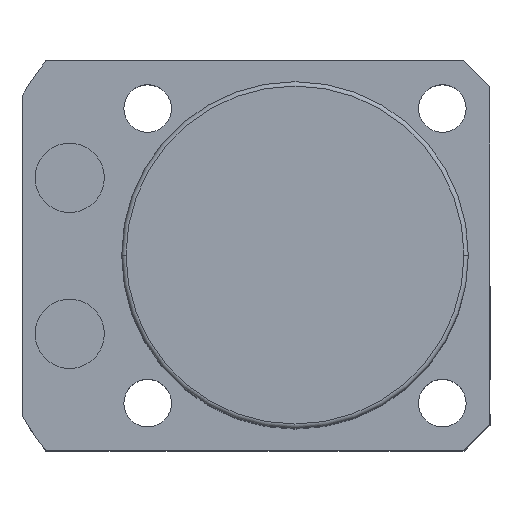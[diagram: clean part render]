
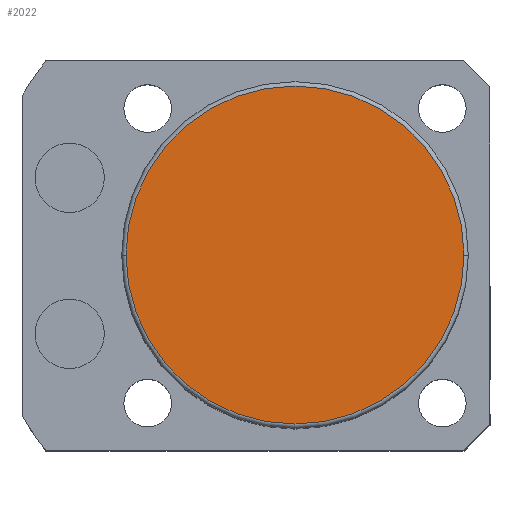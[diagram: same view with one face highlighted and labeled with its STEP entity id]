
A CAD part, top view. The second image highlights one B-rep face of the part: STEP entity #2022.
In plain terms, the highlighted planar face has unit normal (0, 0, 1).
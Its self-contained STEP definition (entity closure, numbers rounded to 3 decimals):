
#21 = CARTESIAN_POINT ( 'NONE',  ( 0., 0., 63.5 ) ) ;
#29 = DIRECTION ( 'NONE',  ( 1., 0., 0. ) ) ;
#38 = DIRECTION ( 'NONE',  ( 0., 0., 1. ) ) ;
#95 = DIRECTION ( 'NONE',  ( 0., 0., 1. ) ) ;
#198 = CIRCLE ( 'NONE', #1105, 19.5 ) ;
#222 = CIRCLE ( 'NONE', #1020, 19.5 ) ;
#405 = AXIS2_PLACEMENT_3D ( 'NONE', #1585, #665, #1034 ) ;
#434 = CARTESIAN_POINT ( 'NONE',  ( -19.5, 0., 63.5 ) ) ;
#471 = PLANE ( 'NONE',  #405 ) ;
#665 = DIRECTION ( 'NONE',  ( 0., 0., 1. ) ) ;
#684 = DIRECTION ( 'NONE',  ( 1., 0., 0. ) ) ;
#1020 = AXIS2_PLACEMENT_3D ( 'NONE', #21, #38, #29 ) ;
#1034 = DIRECTION ( 'NONE',  ( 1., 0., 0. ) ) ;
#1105 = AXIS2_PLACEMENT_3D ( 'NONE', #2171, #95, #684 ) ;
#1353 = ORIENTED_EDGE ( 'NONE', *, *, #1639, .T. ) ;
#1547 = EDGE_CURVE ( 'NONE', #2222, #1619, #198, .T. ) ;
#1585 = CARTESIAN_POINT ( 'NONE',  ( 0., 0., 63.5 ) ) ;
#1619 = VERTEX_POINT ( 'NONE', #434 ) ;
#1639 = EDGE_CURVE ( 'NONE', #1619, #2222, #222, .T. ) ;
#1845 = EDGE_LOOP ( 'NONE', ( #2418, #1353 ) ) ;
#1926 = CARTESIAN_POINT ( 'NONE',  ( 19.5, 0., 63.5 ) ) ;
#2022 = ADVANCED_FACE ( 'NONE', ( #2468 ), #471, .T. ) ;
#2171 = CARTESIAN_POINT ( 'NONE',  ( 0., 0., 63.5 ) ) ;
#2222 = VERTEX_POINT ( 'NONE', #1926 ) ;
#2418 = ORIENTED_EDGE ( 'NONE', *, *, #1547, .T. ) ;
#2468 = FACE_OUTER_BOUND ( 'NONE', #1845, .T. ) ;
